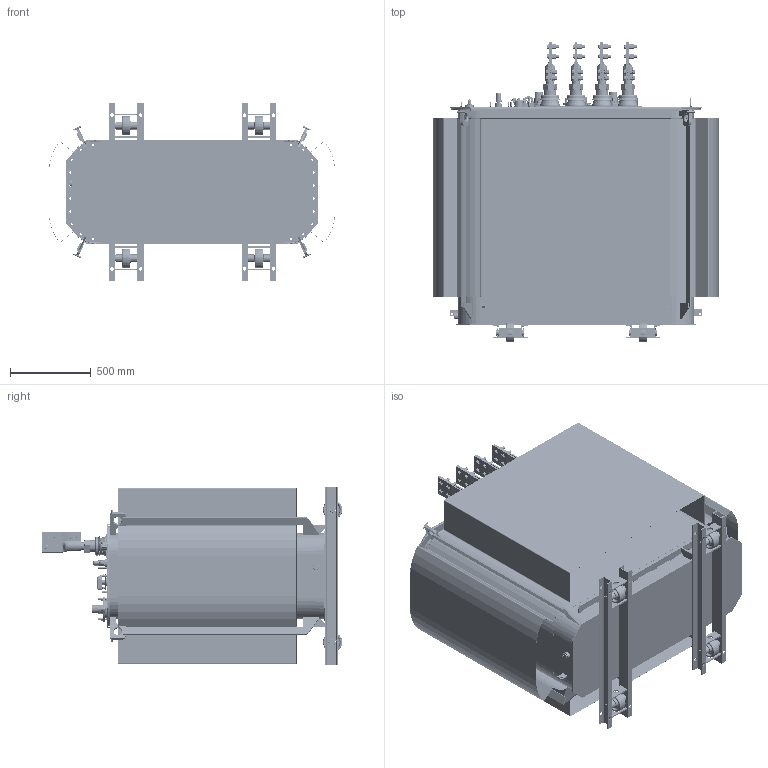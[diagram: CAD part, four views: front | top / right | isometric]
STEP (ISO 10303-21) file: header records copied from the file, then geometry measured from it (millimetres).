
FILE_DESCRIPTION(/* description */ (''),/* implementation_level */ '2;1');
FILE_NAME(/* name */ 'D:\Проекты\\X2\042004100411041E04270410042F\X0\ ПАПКА\2013.11.11_\X2\04110430043A0438\X0\_3D_для_\X2\044204350445043D043E043B043E0433043E0432\X0\\(30_Антон\3_ТМГ-1250-20-У2\ТМГ-1250-20.stp',/* time_stamp */ '2019-05-14T13:45:46+03:00',/* author */ ('54405'),/* organization */ (''),/* preprocessor_version */ 'ST-DEVELOPER v15.2',/* originating_system */ 'Autodesk Inventor 2014',/* authorisation */ '');
FILE_SCHEMA (('AUTOMOTIVE_DESIGN { 1 0 10303 214 3 1 1 }'));
Products named in the file (1): ВИЕЛ.672333.013(1) \X2\0422041C0413
\X0\-1250-20_Shrinkwrap_1
Bounding box: 1768.78 x 1858.5 x 1100 mm (x, y, z)
Volume: 31084448.7 mm3; surface area: 26609740.1 mm2
Topology: 104 solids, 110 shells, 7740 faces, 19953 edges, 12875 vertices
Faces by surface type: plane 4163, cylinder 2125, bspline 647, cone 392, torus 365, sphere 48
Full cylindrical faces by diameter (mm): 1.6 x1, 1.827 x2, 2 x24, 3 x8, 3.1 x2, 4 x2, 4.134 x1, 4.917 x2, 4.95 x1, 5 x1, 5.94 x4, 6 x13, 6.2 x5, 6.4 x3, 6.5 x1, 7.1 x2, 7.5 x9, 7.92 x3, 8 x6, 8.4 x6, 8.5 x3, 8.746 x22, 9 x7, 10 x28, 12.5 x1, 13 x4, 13.9 x1, 14 x97, 14.1 x2, 14.2 x2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
Entity records: 263895 total; most frequent: CARTESIAN_POINT 76286, ORIENTED_EDGE 36744, DIRECTION 35914, EDGE_CURVE 18344, AXIS2_PLACEMENT_3D 12994, VERTEX_POINT 12576, EDGE_LOOP 10131, LINE 9926
